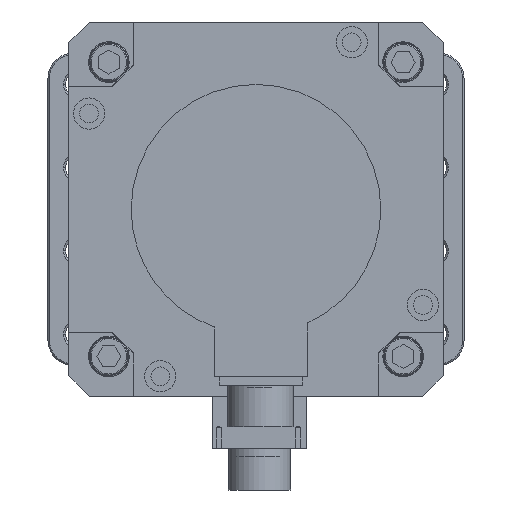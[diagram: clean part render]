
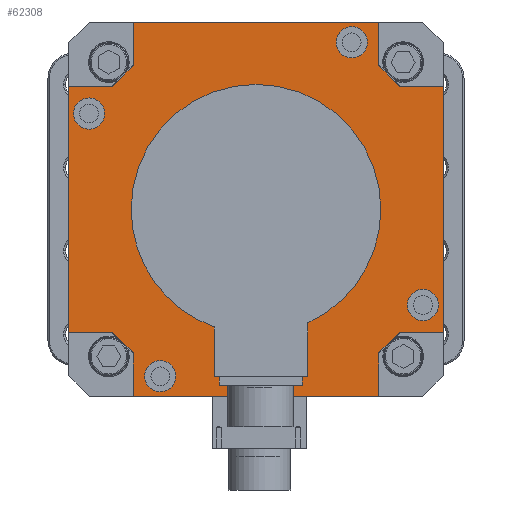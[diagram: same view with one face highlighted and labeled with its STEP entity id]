
A CAD part, front view. The second image highlights one B-rep face of the part: STEP entity #62308.
In plain terms, the highlighted planar face has unit normal (0, -1, 0) as drawn and (0, 0, 1) by its records, which use the part's own axes.
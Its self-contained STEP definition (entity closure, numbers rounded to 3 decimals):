
#61622=DIRECTION('',(-1.,0.,0.));
#61623=VECTOR('',#61622,21.);
#61624=CARTESIAN_POINT('',(21.,31.,0.));
#61625=LINE('',#61624,#61623);
#61626=DIRECTION('',(-0.707,-0.707,0.));
#61627=VECTOR('',#61626,14.142);
#61628=CARTESIAN_POINT('',(31.,159.,0.));
#61629=LINE('',#61628,#61627);
#61630=DIRECTION('',(-0.707,0.707,0.));
#61631=VECTOR('',#61630,14.142);
#61632=CARTESIAN_POINT('',(159.,149.,0.));
#61633=LINE('',#61632,#61631);
#61634=DIRECTION('',(0.,1.,0.));
#61635=VECTOR('',#61634,118.);
#61636=CARTESIAN_POINT('',(180.,31.,0.));
#61637=LINE('',#61636,#61635);
#61638=DIRECTION('',(0.707,0.707,0.));
#61639=VECTOR('',#61638,14.142);
#61640=CARTESIAN_POINT('',(149.,21.,0.));
#61641=LINE('',#61640,#61639);
#61642=DIRECTION('',(1.,0.,0.));
#61643=VECTOR('',#61642,118.);
#61644=CARTESIAN_POINT('',(31.,0.,0.));
#61645=LINE('',#61644,#61643);
#61646=DIRECTION('',(0.707,-0.707,0.));
#61647=VECTOR('',#61646,14.142);
#61648=CARTESIAN_POINT('',(21.,31.,0.));
#61649=LINE('',#61648,#61647);
#61650=DIRECTION('',(0.,-1.,0.));
#61651=VECTOR('',#61650,118.);
#61652=CARTESIAN_POINT('',(0.,149.,0.));
#61653=LINE('',#61652,#61651);
#61654=CARTESIAN_POINT('',(43.987,9.756,0.));
#61655=DIRECTION('',(0.,0.,-1.));
#61656=DIRECTION('',(-1.,0.,0.));
#61657=AXIS2_PLACEMENT_3D('',#61654,#61655,#61656);
#61659=CARTESIAN_POINT('',(43.987,9.756,0.));
#61660=DIRECTION('',(0.,0.,-1.));
#61661=DIRECTION('',(1.,0.,0.));
#61662=AXIS2_PLACEMENT_3D('',#61659,#61660,#61661);
#61664=CARTESIAN_POINT('',(9.756,136.013,0.));
#61665=DIRECTION('',(0.,0.,-1.));
#61666=DIRECTION('',(-1.,0.,0.));
#61667=AXIS2_PLACEMENT_3D('',#61664,#61665,#61666);
#61669=CARTESIAN_POINT('',(9.756,136.013,0.));
#61670=DIRECTION('',(0.,0.,-1.));
#61671=DIRECTION('',(1.,0.,0.));
#61672=AXIS2_PLACEMENT_3D('',#61669,#61670,#61671);
#61674=CARTESIAN_POINT('',(90.,90.,0.));
#61675=DIRECTION('',(0.,0.,-1.));
#61676=DIRECTION('',(1.,0.,0.));
#61677=AXIS2_PLACEMENT_3D('',#61674,#61675,#61676);
#61679=CARTESIAN_POINT('',(90.,90.,0.));
#61680=DIRECTION('',(0.,0.,-1.));
#61681=DIRECTION('',(-1.,0.,0.));
#61682=AXIS2_PLACEMENT_3D('',#61679,#61680,#61681);
#61684=CARTESIAN_POINT('',(136.013,170.244,0.));
#61685=DIRECTION('',(0.,0.,-1.));
#61686=DIRECTION('',(-1.,0.,0.));
#61687=AXIS2_PLACEMENT_3D('',#61684,#61685,#61686);
#61689=CARTESIAN_POINT('',(136.013,170.244,0.));
#61690=DIRECTION('',(0.,0.,-1.));
#61691=DIRECTION('',(1.,0.,0.));
#61692=AXIS2_PLACEMENT_3D('',#61689,#61690,#61691);
#61694=CARTESIAN_POINT('',(170.244,43.987,0.));
#61695=DIRECTION('',(0.,0.,-1.));
#61696=DIRECTION('',(-1.,0.,0.));
#61697=AXIS2_PLACEMENT_3D('',#61694,#61695,#61696);
#61699=CARTESIAN_POINT('',(170.244,43.987,0.));
#61700=DIRECTION('',(0.,0.,-1.));
#61701=DIRECTION('',(1.,0.,0.));
#61702=AXIS2_PLACEMENT_3D('',#61699,#61700,#61701);
#61708=DIRECTION('',(1.,0.,0.));
#61709=VECTOR('',#61708,21.);
#61710=CARTESIAN_POINT('',(0.,149.,0.));
#61711=LINE('',#61710,#61709);
#61732=DIRECTION('',(0.,1.,0.));
#61733=VECTOR('',#61732,21.);
#61734=CARTESIAN_POINT('',(31.,159.,0.));
#61735=LINE('',#61734,#61733);
#61736=DIRECTION('',(1.,0.,0.));
#61737=VECTOR('',#61736,118.);
#61738=CARTESIAN_POINT('',(31.,180.,0.));
#61739=LINE('',#61738,#61737);
#61752=DIRECTION('',(0.,-1.,0.));
#61753=VECTOR('',#61752,21.);
#61754=CARTESIAN_POINT('',(149.,180.,0.));
#61755=LINE('',#61754,#61753);
#61776=DIRECTION('',(1.,0.,0.));
#61777=VECTOR('',#61776,21.);
#61778=CARTESIAN_POINT('',(159.,149.,0.));
#61779=LINE('',#61778,#61777);
#61788=DIRECTION('',(-1.,0.,0.));
#61789=VECTOR('',#61788,21.);
#61790=CARTESIAN_POINT('',(180.,31.,0.));
#61791=LINE('',#61790,#61789);
#61812=DIRECTION('',(0.,-1.,0.));
#61813=VECTOR('',#61812,21.);
#61814=CARTESIAN_POINT('',(149.,21.,0.));
#61815=LINE('',#61814,#61813);
#61824=DIRECTION('',(0.,1.,0.));
#61825=VECTOR('',#61824,21.);
#61826=CARTESIAN_POINT('',(31.,0.,0.));
#61827=LINE('',#61826,#61825);
#61980=CARTESIAN_POINT('',(162.744,43.987,0.));
#61981=CARTESIAN_POINT('',(177.744,43.987,0.));
#61982=VERTEX_POINT('',#61980);
#61983=VERTEX_POINT('',#61981);
#61991=CARTESIAN_POINT('',(159.,149.,0.));
#61993=VERTEX_POINT('',#61991);
#61998=CARTESIAN_POINT('',(159.,31.,0.));
#62000=VERTEX_POINT('',#61998);
#62006=CARTESIAN_POINT('',(128.513,170.244,0.));
#62007=CARTESIAN_POINT('',(143.513,170.244,0.));
#62008=VERTEX_POINT('',#62006);
#62009=VERTEX_POINT('',#62007);
#62010=CARTESIAN_POINT('',(113.,90.,0.));
#62012=VERTEX_POINT('',#62010);
#62014=CARTESIAN_POINT('',(21.,149.,0.));
#62016=VERTEX_POINT('',#62014);
#62018=CARTESIAN_POINT('',(0.,31.,0.));
#62020=VERTEX_POINT('',#62018);
#62040=CARTESIAN_POINT('',(180.,31.,0.));
#62041=CARTESIAN_POINT('',(180.,149.,0.));
#62042=VERTEX_POINT('',#62040);
#62043=VERTEX_POINT('',#62041);
#62049=CARTESIAN_POINT('',(31.,180.,0.));
#62051=VERTEX_POINT('',#62049);
#62060=CARTESIAN_POINT('',(149.,180.,0.));
#62061=VERTEX_POINT('',#62060);
#62062=CARTESIAN_POINT('',(67.,90.,0.));
#62063=VERTEX_POINT('',#62062);
#62082=CARTESIAN_POINT('',(149.,159.,0.));
#62083=VERTEX_POINT('',#62082);
#62085=CARTESIAN_POINT('',(21.,31.,0.));
#62087=VERTEX_POINT('',#62085);
#62088=CARTESIAN_POINT('',(36.487,9.756,0.));
#62089=VERTEX_POINT('',#62088);
#62094=CARTESIAN_POINT('',(17.256,136.013,0.));
#62095=CARTESIAN_POINT('',(2.256,136.013,0.));
#62096=VERTEX_POINT('',#62094);
#62097=VERTEX_POINT('',#62095);
#62098=CARTESIAN_POINT('',(149.,0.,0.));
#62099=VERTEX_POINT('',#62098);
#62100=CARTESIAN_POINT('',(0.,149.,0.));
#62101=VERTEX_POINT('',#62100);
#62102=CARTESIAN_POINT('',(31.,0.,0.));
#62103=CARTESIAN_POINT('',(31.,21.,0.));
#62104=VERTEX_POINT('',#62102);
#62105=VERTEX_POINT('',#62103);
#62106=CARTESIAN_POINT('',(149.,21.,0.));
#62107=VERTEX_POINT('',#62106);
#62110=CARTESIAN_POINT('',(51.487,9.756,0.));
#62111=VERTEX_POINT('',#62110);
#62114=CARTESIAN_POINT('',(31.,159.,0.));
#62115=VERTEX_POINT('',#62114);
#62243=CARTESIAN_POINT('',(0.,0.,0.));
#62244=DIRECTION('',(0.,0.,-1.));
#62245=DIRECTION('',(-1.,0.,0.));
#62246=AXIS2_PLACEMENT_3D('',#62243,#62244,#62245);
#62247=PLANE('',#62246);
#62249=ORIENTED_EDGE('',*,*,#62248,.F.);
#62251=ORIENTED_EDGE('',*,*,#62250,.T.);
#62253=ORIENTED_EDGE('',*,*,#62252,.T.);
#62255=ORIENTED_EDGE('',*,*,#62254,.T.);
#62257=ORIENTED_EDGE('',*,*,#62256,.F.);
#62259=ORIENTED_EDGE('',*,*,#62258,.T.);
#62261=ORIENTED_EDGE('',*,*,#62260,.F.);
#62263=ORIENTED_EDGE('',*,*,#62262,.T.);
#62265=ORIENTED_EDGE('',*,*,#62264,.F.);
#62267=ORIENTED_EDGE('',*,*,#62266,.T.);
#62269=ORIENTED_EDGE('',*,*,#62268,.F.);
#62271=ORIENTED_EDGE('',*,*,#62270,.T.);
#62272=ORIENTED_EDGE('',*,*,#62234,.F.);
#62273=ORIENTED_EDGE('',*,*,#62224,.T.);
#62275=ORIENTED_EDGE('',*,*,#62274,.F.);
#62277=ORIENTED_EDGE('',*,*,#62276,.T.);
#62278=EDGE_LOOP('',(#62249,#62251,#62253,#62255,#62257,#62259,#62261,#62263,
#62265,#62267,#62269,#62271,#62272,#62273,#62275,#62277));
#62279=FACE_OUTER_BOUND('',#62278,.F.);
#62281=ORIENTED_EDGE('',*,*,#62280,.F.);
#62283=ORIENTED_EDGE('',*,*,#62282,.F.);
#62284=EDGE_LOOP('',(#62281,#62283));
#62285=FACE_BOUND('',#62284,.F.);
#62287=ORIENTED_EDGE('',*,*,#62286,.F.);
#62289=ORIENTED_EDGE('',*,*,#62288,.F.);
#62290=EDGE_LOOP('',(#62287,#62289));
#62291=FACE_BOUND('',#62290,.F.);
#62292=ORIENTED_EDGE('',*,*,#62140,.F.);
#62293=ORIENTED_EDGE('',*,*,#62123,.F.);
#62294=EDGE_LOOP('',(#62292,#62293));
#62295=FACE_BOUND('',#62294,.F.);
#62297=ORIENTED_EDGE('',*,*,#62296,.F.);
#62299=ORIENTED_EDGE('',*,*,#62298,.F.);
#62300=EDGE_LOOP('',(#62297,#62299));
#62301=FACE_BOUND('',#62300,.F.);
#62303=ORIENTED_EDGE('',*,*,#62302,.F.);
#62305=ORIENTED_EDGE('',*,*,#62304,.F.);
#62306=EDGE_LOOP('',(#62303,#62305));
#62307=FACE_BOUND('',#62306,.F.);
#62308=ADVANCED_FACE('',(#62279,#62285,#62291,#62295,#62301,#62307),#62247,.F.);
#61658=CIRCLE('',#61657,7.5);
#61663=CIRCLE('',#61662,7.5);
#61668=CIRCLE('',#61667,7.5);
#61673=CIRCLE('',#61672,7.5);
#61678=CIRCLE('',#61677,23.);
#61683=CIRCLE('',#61682,23.);
#61688=CIRCLE('',#61687,7.5);
#61693=CIRCLE('',#61692,7.5);
#61698=CIRCLE('',#61697,7.5);
#61703=CIRCLE('',#61702,7.5);
#62123=EDGE_CURVE('',#62063,#62012,#61683,.T.);
#62140=EDGE_CURVE('',#62012,#62063,#61678,.T.);
#62224=EDGE_CURVE('',#62087,#62020,#61625,.T.);
#62234=EDGE_CURVE('',#62087,#62105,#61649,.T.);
#62248=EDGE_CURVE('',#62115,#62016,#61629,.T.);
#62250=EDGE_CURVE('',#62115,#62051,#61735,.T.);
#62252=EDGE_CURVE('',#62051,#62061,#61739,.T.);
#62254=EDGE_CURVE('',#62061,#62083,#61755,.T.);
#62256=EDGE_CURVE('',#61993,#62083,#61633,.T.);
#62258=EDGE_CURVE('',#61993,#62043,#61779,.T.);
#62260=EDGE_CURVE('',#62042,#62043,#61637,.T.);
#62262=EDGE_CURVE('',#62042,#62000,#61791,.T.);
#62264=EDGE_CURVE('',#62107,#62000,#61641,.T.);
#62266=EDGE_CURVE('',#62107,#62099,#61815,.T.);
#62268=EDGE_CURVE('',#62104,#62099,#61645,.T.);
#62270=EDGE_CURVE('',#62104,#62105,#61827,.T.);
#62274=EDGE_CURVE('',#62101,#62020,#61653,.T.);
#62276=EDGE_CURVE('',#62101,#62016,#61711,.T.);
#62280=EDGE_CURVE('',#62089,#62111,#61658,.T.);
#62282=EDGE_CURVE('',#62111,#62089,#61663,.T.);
#62286=EDGE_CURVE('',#62097,#62096,#61668,.T.);
#62288=EDGE_CURVE('',#62096,#62097,#61673,.T.);
#62296=EDGE_CURVE('',#62008,#62009,#61688,.T.);
#62298=EDGE_CURVE('',#62009,#62008,#61693,.T.);
#62302=EDGE_CURVE('',#61982,#61983,#61698,.T.);
#62304=EDGE_CURVE('',#61983,#61982,#61703,.T.);
